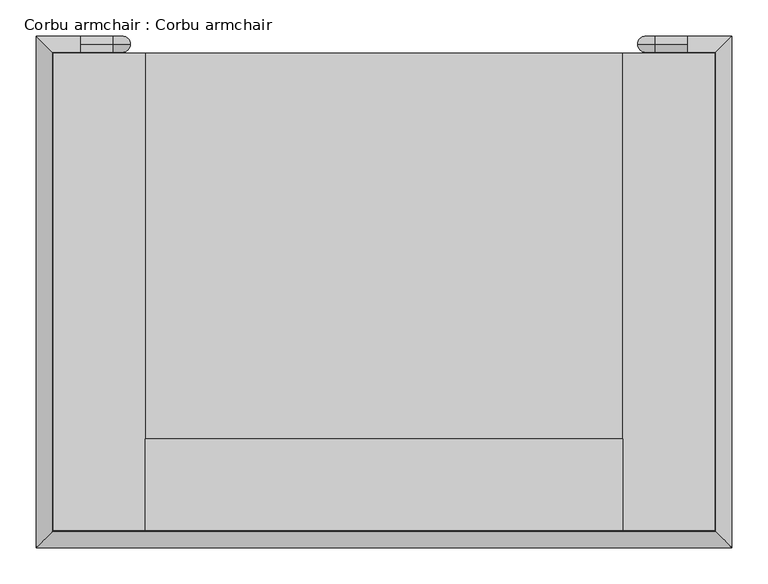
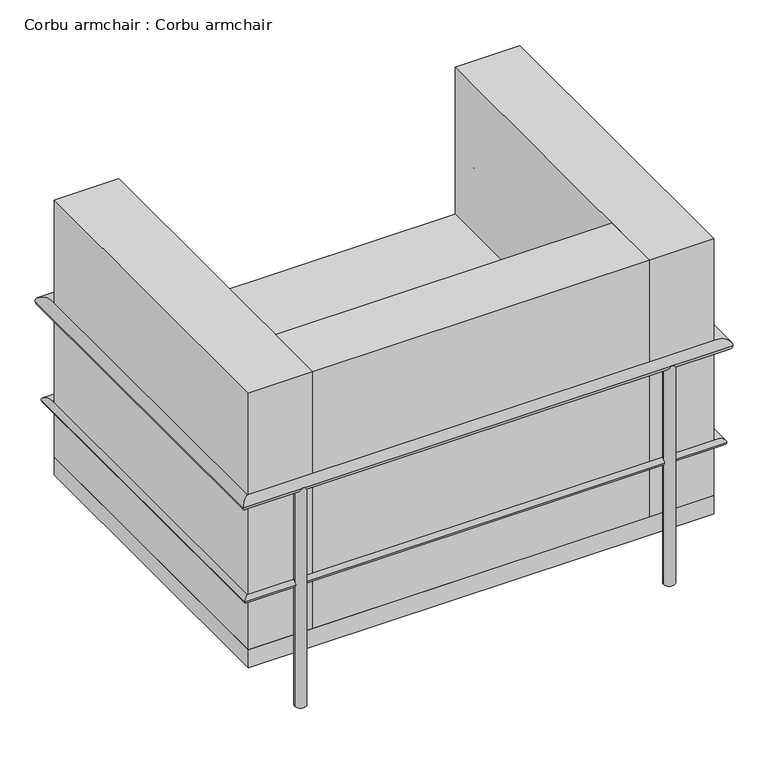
"""IFC4 building model written with IfcOpenShell, lengths in millimetres: furniture geometry, Corbu armchair : Corbu armchair."""

from ifc_helpers import new_model, si_unit, point, frame, frame_2d, origin, origin_with_axes, place, context, project, spatial, polyline, circle_curve, ellipse_curve, trimmed, segment, composite_curve, outline, extrude, source, transform, mapped, element, save
from ifc_brep_helpers import plane_surface, cylinder_surface, revolved_surface, advanced_brep


def corbu_armchair_corbu_armchair_9ac4339d(model_context):
    return source(origin(), model_context, "Body", "SolidModel", [
        extrude(outline(composite_curve([segment(trimmed(circle_curve(frame_2d((211.4237705, -809.6770492)), 11.1125), [point((200.3112705, -809.6770492))], [point((222.5362705, -809.6770492))], False, "CARTESIAN"), True, "CONTINUOUS"), segment(trimmed(circle_curve(frame_2d((211.4237705, -809.6770492)), 11.1125), [point((222.5362705, -809.6770492))], [point((200.3112705, -809.6770492))], False, "CARTESIAN"), True, "CONTINUOUS")], self_intersect=False)), origin_with_axes(), (0.0, 0.0, 1.0), 457.2),
        extrude(outline(composite_curve([segment(trimmed(circle_curve(frame_2d((935.3237705, -809.6770492)), 11.1125), [point((946.4362705, -809.6770492))], [point((924.2112705, -809.6770492))], False, "CARTESIAN"), True, "CONTINUOUS"), segment(trimmed(circle_curve(frame_2d((935.3237705, -809.6770492)), 11.1125), [point((924.2112705, -809.6770492))], [point((946.4362705, -809.6770492))], False, "CARTESIAN"), True, "CONTINUOUS")], self_intersect=False)), origin_with_axes(), (0.0, 0.0, 1.0), 457.2),
        advanced_brep(
        [(946.4362705, -123.8770492, 0.0), (924.2112705, -123.8770492, 0.0), (924.2112705, -123.8770492, 444.5), (946.4362705, -123.8770492, 444.5), (948.0237705, -123.8770492, 468.3125), (948.0237705, -123.8770492, 446.0875), (992.4737705, -123.8770492, 446.0875), (992.4737705, -123.8770492, 468.3125)],
        [
            (0, 1, circle_curve(frame((935.3237705, -123.8770492, 0.0), z_axis=(0.0, 0.0, -1.0), x_axis=(-1.0, 0.0, 0.0)), 11.1125)),
            (1, 0, circle_curve(frame((935.3237705, -123.8770492, 0.0), z_axis=(0.0, 0.0, -1.0), x_axis=(-1.0, 0.0, 0.0)), 11.1125)),
            (1, 2),
            (2, 3, circle_curve(frame((935.3237705, -123.8770492, 444.5), z_axis=(0.0, 0.0, -1.0), x_axis=(-1.0, 0.0, 0.0)), 11.1125)),
            (3, 0),
            (3, 2, circle_curve(frame((935.3237705, -123.8770492, 444.5), z_axis=(0.0, 0.0, -1.0), x_axis=(-1.0, 0.0, 0.0)), 11.1125)),
            (4, 5, circle_curve(frame((948.0237705, -123.8770492, 457.2), z_axis=(-1.0, 0.0, 0.0), x_axis=(0.0, 0.0, 1.0)), 11.1125)),
            (5, 3, circle_curve(frame((948.0237705, -123.8770492, 444.5), z_axis=(0.0, -1.0, 0.0), x_axis=(-1.0, 0.0, 0.0)), 1.5875)),
            (2, 4, circle_curve(frame((948.0237705, -123.8770492, 444.5), z_axis=(0.0, 1.0, 0.0), x_axis=(-1.0, 0.0, 0.0)), 23.8125)),
            (5, 4, circle_curve(frame((948.0237705, -123.8770492, 457.2), z_axis=(-1.0, 0.0, 0.0), x_axis=(0.0, 0.0, 1.0)), 11.1125)),
            (6, 7, circle_curve(frame((992.4737705, -123.8770492, 457.2), z_axis=(1.0, 0.0, 0.0), x_axis=(0.0, 0.0, 1.0)), 11.1125)),
            (7, 6, circle_curve(frame((992.4737705, -123.8770492, 457.2), z_axis=(1.0, 0.0, 0.0), x_axis=(0.0, 0.0, 1.0)), 11.1125)),
            (4, 7),
            (6, 5),
        ],
        [
            plane_surface(frame((935.3237705, -112.7645492, 0.0), z_axis=(0.0, 0.0, -1.0), x_axis=(1.0, 0.0, 0.0))),
            cylinder_surface(frame((935.3237705, -123.8770492, 0.0), z_axis=(0.0, 0.0, -1.0), x_axis=(-1.0, 0.0, 0.0)), 11.1125),
            revolved_surface(trimmed(ellipse_curve(frame((935.3237705, -123.8770492, 444.5), z_axis=(0.0, 0.0, 1.0), x_axis=(-1.0, 0.0, 0.0)), 11.1125, 11.1125), [point((946.4362705, -123.8770492, 444.5))], [point((924.2112705, -123.8770492, 444.5))], True, "CARTESIAN"), (948.0237705, -123.8770492, 444.5), (0.0, -1.0, 0.0)),
            revolved_surface(trimmed(ellipse_curve(frame((935.3237705, -123.8770492, 444.5), z_axis=(0.0, 0.0, 1.0), x_axis=(-1.0, 0.0, 0.0)), 11.1125, 11.1125), [point((924.2112705, -123.8770492, 444.5))], [point((946.4362705, -123.8770492, 444.5))], True, "CARTESIAN"), (948.0237705, -123.8770492, 444.5), (0.0, -1.0, 0.0)),
            plane_surface(frame((992.4737705, -123.8770492, 446.0875), z_axis=(1.0, 0.0, 0.0), x_axis=(0.0, -1.0, 0.0))),
            cylinder_surface(frame((948.0237705, -123.8770492, 457.2), z_axis=(-1.0, 0.0, 0.0), x_axis=(0.0, 0.0, 1.0)), 11.1125),
        ],
        [
            (0, [[1, 2]]),
            (1, [[3, 4, 5, -2]]),
            (1, [[-5, 6, -3, -1]]),
            (2, [[7, 8, -4, 9]]),
            (3, [[10, -9, -6, -8]]),
            (4, [[11, 12]]),
            (5, [[13, -11, 14, -7]]),
            (5, [[-14, -12, -13, -10]]),
        ],
    ),
        advanced_brep(
        [(222.5362705, -123.8770492, 0.0), (200.3112705, -123.8770492, 0.0), (200.3112705, -123.8770492, 444.5), (222.5362705, -123.8770492, 444.5), (198.7237705, -123.8770492, 446.0875), (198.7237705, -123.8770492, 468.3125), (154.2737705, -123.8770492, 468.3125), (154.2737705, -123.8770492, 446.0875)],
        [
            (0, 1, circle_curve(frame((211.4237705, -123.8770492, 0.0), z_axis=(0.0, 0.0, -1.0), x_axis=(-1.0, 0.0, 0.0)), 11.1125)),
            (1, 0, circle_curve(frame((211.4237705, -123.8770492, 0.0), z_axis=(0.0, 0.0, -1.0), x_axis=(-1.0, 0.0, 0.0)), 11.1125)),
            (1, 2),
            (2, 3, circle_curve(frame((211.4237705, -123.8770492, 444.5), z_axis=(0.0, 0.0, -1.0), x_axis=(-1.0, 0.0, 0.0)), 11.1125)),
            (3, 0),
            (3, 2, circle_curve(frame((211.4237705, -123.8770492, 444.5), z_axis=(0.0, 0.0, -1.0), x_axis=(-1.0, 0.0, 0.0)), 11.1125)),
            (4, 5, circle_curve(frame((198.7237705, -123.8770492, 457.2), z_axis=(1.0, 0.0, 0.0), x_axis=(0.0, 0.0, -1.0)), 11.1125)),
            (5, 3, circle_curve(frame((198.7237705, -123.8770492, 444.5), z_axis=(0.0, 1.0, 0.0), x_axis=(1.0, 0.0, 0.0)), 23.8125)),
            (2, 4, circle_curve(frame((198.7237705, -123.8770492, 444.5), z_axis=(0.0, -1.0, 0.0), x_axis=(1.0, 0.0, 0.0)), 1.5875)),
            (5, 4, circle_curve(frame((198.7237705, -123.8770492, 457.2), z_axis=(1.0, 0.0, 0.0), x_axis=(0.0, 0.0, -1.0)), 11.1125)),
            (6, 7, circle_curve(frame((154.2737705, -123.8770492, 457.2), z_axis=(-1.0, 0.0, 0.0), x_axis=(0.0, 0.0, -1.0)), 11.1125)),
            (7, 6, circle_curve(frame((154.2737705, -123.8770492, 457.2), z_axis=(-1.0, 0.0, 0.0), x_axis=(0.0, 0.0, -1.0)), 11.1125)),
            (4, 7),
            (6, 5),
        ],
        [
            plane_surface(frame((211.4237705, -112.7645492, 0.0), z_axis=(0.0, 0.0, -1.0), x_axis=(1.0, 0.0, 0.0))),
            cylinder_surface(frame((211.4237705, -123.8770492, 0.0), z_axis=(0.0, 0.0, -1.0), x_axis=(-1.0, 0.0, 0.0)), 11.1125),
            revolved_surface(trimmed(ellipse_curve(frame((211.4237705, -123.8770492, 444.5), z_axis=(0.0, 0.0, 1.0), x_axis=(-1.0, 0.0, 0.0)), 11.1125, 11.1125), [point((222.5362705, -123.8770492, 444.5))], [point((200.3112705, -123.8770492, 444.5))], True, "CARTESIAN"), (198.7237705, -123.8770492, 444.5), (0.0, 1.0, 0.0)),
            revolved_surface(trimmed(ellipse_curve(frame((211.4237705, -123.8770492, 444.5), z_axis=(0.0, 0.0, 1.0), x_axis=(-1.0, 0.0, 0.0)), 11.1125, 11.1125), [point((200.3112705, -123.8770492, 444.5))], [point((222.5362705, -123.8770492, 444.5))], True, "CARTESIAN"), (198.7237705, -123.8770492, 444.5), (0.0, 1.0, 0.0)),
            plane_surface(frame((154.2737705, -123.8770492, 446.0875), z_axis=(-1.0, 0.0, 0.0), x_axis=(0.0, 1.0, 0.0))),
            cylinder_surface(frame((198.7237705, -123.8770492, 457.2), z_axis=(1.0, 0.0, 0.0), x_axis=(0.0, 0.0, -1.0)), 11.1125),
        ],
        [
            (0, [[1, 2]]),
            (1, [[3, 4, 5, -2]]),
            (1, [[-5, 6, -3, -1]]),
            (2, [[7, 8, -4, 9]]),
            (3, [[10, -9, -6, -8]]),
            (4, [[11, 12]]),
            (5, [[13, -11, 14, -7]]),
            (5, [[-14, -12, -13, -10]]),
        ],
    ),
        advanced_brep(
        [(201.8987705, -133.4020492, 254.0), (201.8987705, -120.7020492, 254.0), (100.2987705, -120.7020492, 254.0), (112.9987705, -133.4020492, 254.0), (100.2987705, -812.8520492, 254.0), (112.9987705, -800.1520492, 254.0), (1046.4487705, -812.8520492, 254.0), (1033.7487705, -800.1520492, 254.0), (1046.4487705, -120.7020492, 254.0), (1033.7487705, -133.4020492, 254.0), (944.8487705, -133.4020492, 254.0), (944.8487705, -120.7020492, 254.0)],
        [
            (0, 1, circle_curve(frame((201.8987705, -127.0520492, 254.0), z_axis=(1.0, 0.0, 0.0), x_axis=(0.0, 1.0, 0.0)), 6.35)),
            (1, 0, circle_curve(frame((201.8987705, -127.0520492, 254.0), z_axis=(1.0, 0.0, 0.0), x_axis=(0.0, 1.0, 0.0)), 6.35)),
            (1, 2),
            (2, 3, ellipse_curve(frame((106.6487705, -127.0520492, 254.0), z_axis=(0.7071067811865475, 0.7071067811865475, 0.0), x_axis=(0.7071067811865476, -0.7071067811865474, 0.0)), 8.9802561, 6.35)),
            (3, 0),
            (3, 2, ellipse_curve(frame((106.6487705, -127.0520492, 254.0), z_axis=(0.7071067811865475, 0.7071067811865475, 0.0), x_axis=(0.7071067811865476, -0.7071067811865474, 0.0)), 8.9802561, 6.35)),
            (2, 4),
            (4, 5, ellipse_curve(frame((106.6487705, -806.5020492, 254.0), z_axis=(-0.7071067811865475, 0.7071067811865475, 0.0), x_axis=(0.7071067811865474, 0.7071067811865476, 0.0)), 8.9802561, 6.35)),
            (5, 3),
            (5, 4, ellipse_curve(frame((106.6487705, -806.5020492, 254.0), z_axis=(-0.7071067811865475, 0.7071067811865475, 0.0), x_axis=(0.7071067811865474, 0.7071067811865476, 0.0)), 8.9802561, 6.35)),
            (4, 6),
            (6, 7, ellipse_curve(frame((1040.0987705, -806.5020492, 254.0), z_axis=(-0.7071067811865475, -0.7071067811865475, 0.0), x_axis=(-0.7071067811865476, 0.7071067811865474, 0.0)), 8.9802561, 6.35)),
            (7, 5),
            (7, 6, ellipse_curve(frame((1040.0987705, -806.5020492, 254.0), z_axis=(-0.7071067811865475, -0.7071067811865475, 0.0), x_axis=(-0.7071067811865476, 0.7071067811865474, 0.0)), 8.9802561, 6.35)),
            (6, 8),
            (8, 9, ellipse_curve(frame((1040.0987705, -127.0520492, 254.0), z_axis=(0.7071067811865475, -0.7071067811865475, 0.0), x_axis=(-0.7071067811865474, -0.7071067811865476, 0.0)), 8.9802561, 6.35)),
            (9, 7),
            (9, 8, ellipse_curve(frame((1040.0987705, -127.0520492, 254.0), z_axis=(0.7071067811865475, -0.7071067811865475, 0.0), x_axis=(-0.7071067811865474, -0.7071067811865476, 0.0)), 8.9802561, 6.35)),
            (10, 11, circle_curve(frame((944.8487705, -127.0520492, 254.0), z_axis=(-1.0, 0.0, 0.0), x_axis=(0.0, 1.0, 0.0)), 6.35)),
            (11, 10, circle_curve(frame((944.8487705, -127.0520492, 254.0), z_axis=(-1.0, 0.0, 0.0), x_axis=(0.0, 1.0, 0.0)), 6.35)),
            (8, 11),
            (10, 9),
        ],
        [
            plane_surface(frame((201.8987705, -127.0520492, -259.5186838), z_axis=(1.0, 0.0, 0.0), x_axis=(0.0, 1.0, 0.0))),
            cylinder_surface(frame((201.8987705, -127.0520492, 254.0), z_axis=(1.0, 0.0, 0.0), x_axis=(0.0, 1.0, 0.0)), 6.35),
            cylinder_surface(frame((106.6487705, -127.0520492, 254.0), z_axis=(0.0, 1.0, 0.0), x_axis=(-1.0, 0.0, 0.0)), 6.35),
            cylinder_surface(frame((106.6487705, -806.5020492, 254.0), z_axis=(-0.9999999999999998, 0.0, 0.0), x_axis=(0.0, -0.9999999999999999, 0.0)), 6.35),
            cylinder_surface(frame((1040.0987705, -806.5020492, 254.0), z_axis=(0.0, -1.0, 0.0), x_axis=(1.0, 0.0, 0.0)), 6.35),
            plane_surface(frame((944.8487705, -127.0520492, -259.5186838), z_axis=(-1.0, 0.0, 0.0), x_axis=(0.0, 1.0, 0.0))),
            cylinder_surface(frame((1040.0987705, -127.0520492, 254.0), z_axis=(1.0, 0.0, 0.0), x_axis=(0.0, 1.0, 0.0)), 6.35),
        ],
        [
            (0, [[1, 2]]),
            (1, [[3, 4, 5, -2]]),
            (1, [[-5, 6, -3, -1]]),
            (2, [[7, 8, 9, -4]]),
            (2, [[-9, 10, -7, -6]]),
            (3, [[11, 12, 13, -8]]),
            (3, [[-13, 14, -11, -10]]),
            (4, [[15, 16, 17, -12]]),
            (4, [[-17, 18, -15, -14]]),
            (5, [[19, 20]]),
            (6, [[21, -19, 22, -16]]),
            (6, [[-22, -20, -21, -18]]),
        ],
    ),
        advanced_brep(
        [(154.2737705, -134.9895492, 457.2), (154.2737705, -112.7645492, 457.2), (92.3612705, -112.7645492, 457.2), (114.5862705, -134.9895492, 457.2), (92.3612705, -820.7895492, 457.2), (114.5862705, -798.5645492, 457.2), (1054.3862705, -820.7895492, 457.2), (1032.1612705, -798.5645492, 457.2), (1054.3862705, -112.7645492, 457.2), (1032.1612705, -134.9895492, 457.2), (992.4737705, -134.9895492, 457.2), (992.4737705, -112.7645492, 457.2)],
        [
            (0, 1, circle_curve(frame((154.2737705, -123.8770492, 457.2), z_axis=(1.0, 0.0, 0.0), x_axis=(0.0, 1.0, 0.0)), 11.1125)),
            (1, 0, circle_curve(frame((154.2737705, -123.8770492, 457.2), z_axis=(1.0, 0.0, 0.0), x_axis=(0.0, 1.0, 0.0)), 11.1125)),
            (1, 2),
            (2, 3, ellipse_curve(frame((103.4737705, -123.8770492, 457.2), z_axis=(0.7071067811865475, 0.7071067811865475, 0.0), x_axis=(0.7071067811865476, -0.7071067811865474, 0.0)), 15.7154482, 11.1125)),
            (3, 0),
            (3, 2, ellipse_curve(frame((103.4737705, -123.8770492, 457.2), z_axis=(0.7071067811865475, 0.7071067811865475, 0.0), x_axis=(0.7071067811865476, -0.7071067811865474, 0.0)), 15.7154482, 11.1125)),
            (2, 4),
            (4, 5, ellipse_curve(frame((103.4737705, -809.6770492, 457.2), z_axis=(-0.7071067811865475, 0.7071067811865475, 0.0), x_axis=(0.7071067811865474, 0.7071067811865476, 0.0)), 15.7154482, 11.1125)),
            (5, 3),
            (5, 4, ellipse_curve(frame((103.4737705, -809.6770492, 457.2), z_axis=(-0.7071067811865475, 0.7071067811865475, 0.0), x_axis=(0.7071067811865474, 0.7071067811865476, 0.0)), 15.7154482, 11.1125)),
            (4, 6),
            (6, 7, ellipse_curve(frame((1043.2737705, -809.6770492, 457.2), z_axis=(-0.7071067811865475, -0.7071067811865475, 0.0), x_axis=(-0.7071067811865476, 0.7071067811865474, 0.0)), 15.7154482, 11.1125)),
            (7, 5),
            (7, 6, ellipse_curve(frame((1043.2737705, -809.6770492, 457.2), z_axis=(-0.7071067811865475, -0.7071067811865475, 0.0), x_axis=(-0.7071067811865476, 0.7071067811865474, 0.0)), 15.7154482, 11.1125)),
            (6, 8),
            (8, 9, ellipse_curve(frame((1043.2737705, -123.8770492, 457.2), z_axis=(0.7071067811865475, -0.7071067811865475, 0.0), x_axis=(-0.7071067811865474, -0.7071067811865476, 0.0)), 15.7154482, 11.1125)),
            (9, 7),
            (9, 8, ellipse_curve(frame((1043.2737705, -123.8770492, 457.2), z_axis=(0.7071067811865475, -0.7071067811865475, 0.0), x_axis=(-0.7071067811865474, -0.7071067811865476, 0.0)), 15.7154482, 11.1125)),
            (10, 11, circle_curve(frame((992.4737705, -123.8770492, 457.2), z_axis=(-1.0, 0.0, 0.0), x_axis=(0.0, 1.0, 0.0)), 11.1125)),
            (11, 10, circle_curve(frame((992.4737705, -123.8770492, 457.2), z_axis=(-1.0, 0.0, 0.0), x_axis=(0.0, 1.0, 0.0)), 11.1125)),
            (8, 11),
            (10, 9),
        ],
        [
            plane_surface(frame((154.2737705, -123.8770492, -466.8567721), z_axis=(1.0, 0.0, 0.0), x_axis=(0.0, 1.0, 0.0))),
            cylinder_surface(frame((154.2737705, -123.8770492, 457.2), z_axis=(1.0, 0.0, 0.0), x_axis=(0.0, 1.0, 0.0)), 11.1125),
            cylinder_surface(frame((103.4737705, -123.8770492, 457.2), z_axis=(0.0, 1.0, 0.0), x_axis=(-1.0, 0.0, 0.0)), 11.1125),
            cylinder_surface(frame((103.4737705, -809.6770492, 457.2), z_axis=(-1.0, 0.0, 0.0), x_axis=(0.0, -1.0, 0.0)), 11.1125),
            cylinder_surface(frame((1043.2737705, -809.6770492, 457.2), z_axis=(0.0, -1.0, 0.0), x_axis=(1.0, 0.0, 0.0)), 11.1125),
            plane_surface(frame((992.4737705, -123.8770492, -466.8567721), z_axis=(-1.0, 0.0, 0.0), x_axis=(0.0, 1.0, 0.0))),
            cylinder_surface(frame((1043.2737705, -123.8770492, 457.2), z_axis=(1.0, 0.0, 0.0), x_axis=(0.0, 1.0, 0.0)), 11.1125),
        ],
        [
            (0, [[1, 2]]),
            (1, [[3, 4, 5, -2]]),
            (1, [[-5, 6, -3, -1]]),
            (2, [[7, 8, 9, -4]]),
            (2, [[-9, 10, -7, -6]]),
            (3, [[11, 12, 13, -8]]),
            (3, [[-13, 14, -11, -10]]),
            (4, [[15, 16, 17, -12]]),
            (4, [[-17, 18, -15, -14]]),
            (5, [[19, 20]]),
            (6, [[21, -19, 22, -16]]),
            (6, [[-22, -20, -21, -18]]),
        ],
    ),
        extrude(outline(polyline([(903.5737705, -796.9770492), (243.1737705, -796.9770492), (243.1737705, -669.9770492), (903.5737705, -669.9770492), (903.5737705, -796.9770492)])), frame((0.0, 0.0, 139.7), z_axis=(0.0, 0.0, 1.0), x_axis=(1.0, 0.0, 0.0)), (0.0, 0.0, 1.0), 533.4),
        extrude(outline(polyline([(903.5737705, -669.9770492), (243.1737705, -669.9770492), (243.1737705, -136.5770492), (903.5737705, -136.5770492), (903.5737705, -669.9770492)])), frame((0.0, 0.0, 139.7), z_axis=(0.0, 0.0, 1.0), x_axis=(1.0, 0.0, 0.0)), (0.0, 0.0, 1.0), 228.6),
        extrude(outline(polyline([(243.1737705, -796.9770492), (116.1737705, -796.9770492), (116.1737705, -136.5770492), (243.1737705, -136.5770492), (243.1737705, -796.9770492)])), frame((0.0, 0.0, 139.7), z_axis=(0.0, 0.0, 1.0), x_axis=(1.0, 0.0, 0.0)), (0.0, 0.0, 1.0), 533.4),
        extrude(outline(polyline([(1030.5737705, -796.9770492), (903.5737705, -796.9770492), (903.5737705, -136.5770492), (1030.5737705, -136.5770492), (1030.5737705, -796.9770492)])), frame((0.0, 0.0, 139.7), z_axis=(0.0, 0.0, 1.0), x_axis=(1.0, 0.0, 0.0)), (0.0, 0.0, 1.0), 533.4),
        extrude(outline(polyline([(1030.5737705, -796.9770492), (116.1737705, -796.9770492), (116.1737705, -136.5770492), (1030.5737705, -136.5770492), (1030.5737705, -796.9770492)])), frame((0.0, 0.0, 101.6), z_axis=(0.0, 0.0, 1.0), x_axis=(1.0, 0.0, 0.0)), (0.0, 0.0, 1.0), 38.1),
    ])


if __name__ == "__main__":
    model = new_model("IFC4")
    model_context = context("Model", 3, world=origin())
    ifc_project = project(units=[si_unit("LENGTHUNIT", "METRE", prefix="MILLI")], contexts=[model_context])
    site = spatial("IfcSite", under=ifc_project)
    building = spatial("IfcBuilding", under=site)
    placement = place(None, origin())
    corbu_armchair_corbu_armchair_shape = corbu_armchair_corbu_armchair_9ac4339d(model_context)
    element("IfcFurniture", 1, ObjectType="Corbu armchair : Corbu armchair", at=placement, inside=building, context=model_context, shape_type="MappedRepresentation", body=[
        mapped(corbu_armchair_corbu_armchair_shape, transform((0.0, 0.0, 0.0), x_axis=(1.0, 0.0, 0.0), y_axis=(0.0, 1.0, 0.0), z_axis=(0.0, 0.0, 1.0))),
    ])
    save(model, "model.ifc")
